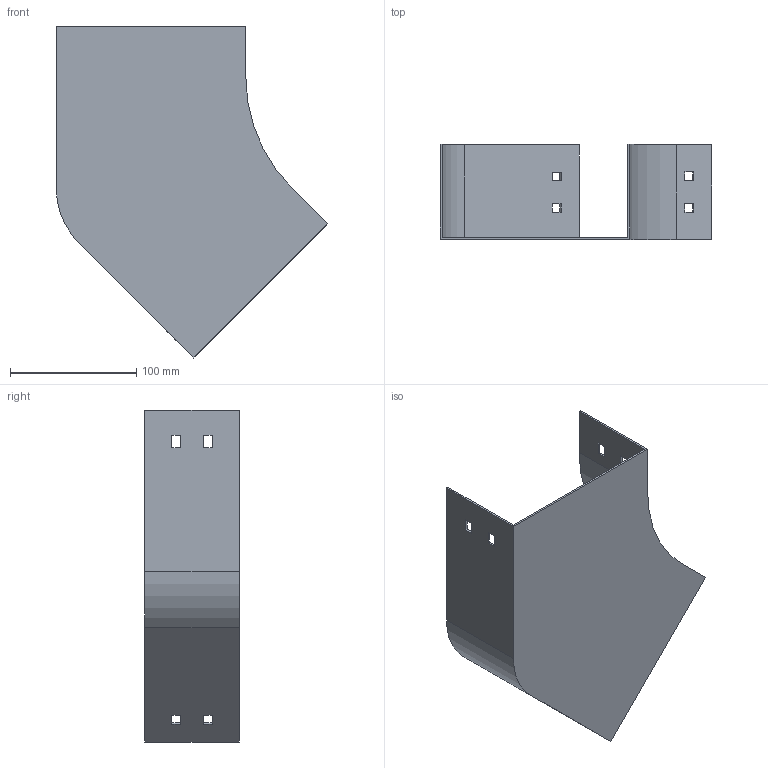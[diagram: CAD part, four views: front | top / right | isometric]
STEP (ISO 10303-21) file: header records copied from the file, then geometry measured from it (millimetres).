
FILE_DESCRIPTION (( 'STEP AP214' ), '1' );
FILE_NAME ('P4_157.step', '2025-07-16T09:19:01', ( '' ), ( '' ), 'SwSTEP 2.0', 'SolidWorks 2023', '' );
FILE_SCHEMA (( 'AUTOMOTIVE_DESIGN' ));
Length unit declared in the file: millimetre
Products named in the file (1): P4_157
Bounding box: 214.9 x 75 x 262.74 mm (x, y, z)
Volume: 108101.6 mm3; surface area: 146159.4 mm2
Topology: 1 solids, 1 shells, 50 faces, 144 edges, 96 vertices
Faces by surface type: plane 46, cylinder 4
Entity records: 1671 total; most frequent: CARTESIAN_POINT 291, ORIENTED_EDGE 288, DIRECTION 254, EDGE_CURVE 144, VECTOR 136, LINE 136, VERTEX_POINT 96, EDGE_LOOP 66
